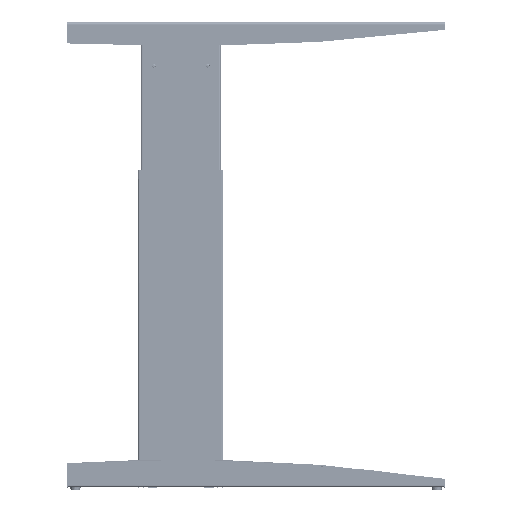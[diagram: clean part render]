
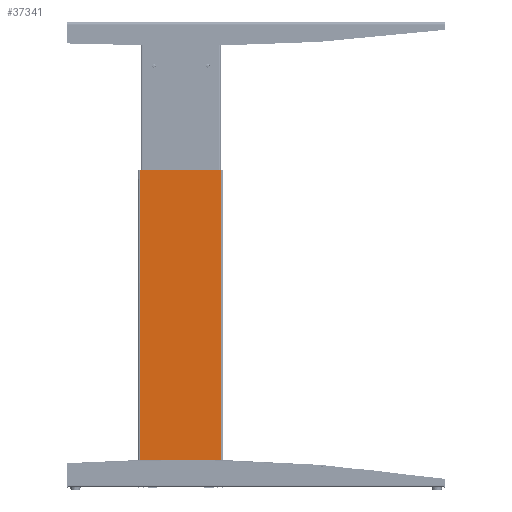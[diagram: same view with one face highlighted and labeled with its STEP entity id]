
A CAD part, left-side view. The second image highlights one B-rep face of the part: STEP entity #37341.
In plain terms, the highlighted planar face has unit normal (-1, 0, 0).
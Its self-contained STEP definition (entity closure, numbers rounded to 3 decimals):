
#38 = DIRECTION ( 'NONE',  ( 0., 0., 1. ) ) ;
#548 = VERTEX_POINT ( 'NONE', #57184 ) ;
#2186 = VECTOR ( 'NONE', #38, 1000. ) ;
#2743 = VERTEX_POINT ( 'NONE', #67647 ) ;
#2942 = LINE ( 'NONE', #86277, #45750 ) ;
#3286 = EDGE_CURVE ( 'NONE', #31688, #548, #46177, .T. ) ;
#4493 = PLANE ( 'NONE',  #37772 ) ;
#13155 = EDGE_CURVE ( 'NONE', #86070, #2743, #2942, .T. ) ;
#14110 = EDGE_LOOP ( 'NONE', ( #73879, #49054, #46173, #56148 ) ) ;
#21799 = CARTESIAN_POINT ( 'NONE',  ( 0., -78.85, 612. ) ) ;
#22807 = DIRECTION ( 'NONE',  ( 0., 0., -1. ) ) ;
#23829 = EDGE_CURVE ( 'NONE', #86070, #548, #46445, .T. ) ;
#31573 = VECTOR ( 'NONE', #83739, 1000. ) ;
#31688 = VERTEX_POINT ( 'NONE', #54490 ) ;
#33321 = CARTESIAN_POINT ( 'NONE',  ( 0., -82.5, 2. ) ) ;
#36690 = CARTESIAN_POINT ( 'NONE',  ( 0., 78.85, 2. ) ) ;
#37341 = ADVANCED_FACE ( 'NONE', ( #61816 ), #4493, .T. ) ;
#37772 = AXIS2_PLACEMENT_3D ( 'NONE', #39461, #90879, #61164 ) ;
#39461 = CARTESIAN_POINT ( 'NONE',  ( 0., 82.5, 612. ) ) ;
#45253 = VECTOR ( 'NONE', #22807, 1000. ) ;
#45750 = VECTOR ( 'NONE', #85973, 1000. ) ;
#46173 = ORIENTED_EDGE ( 'NONE', *, *, #3286, .F. ) ;
#46177 = LINE ( 'NONE', #33321, #31573 ) ;
#46445 = LINE ( 'NONE', #36690, #45253 ) ;
#49054 = ORIENTED_EDGE ( 'NONE', *, *, #23829, .T. ) ;
#54490 = CARTESIAN_POINT ( 'NONE',  ( 0., -78.85, 2. ) ) ;
#56148 = ORIENTED_EDGE ( 'NONE', *, *, #81277, .T. ) ;
#57184 = CARTESIAN_POINT ( 'NONE',  ( 0., 78.85, 2. ) ) ;
#61164 = DIRECTION ( 'NONE',  ( 0., -1., 0. ) ) ;
#61816 = FACE_OUTER_BOUND ( 'NONE', #14110, .T. ) ;
#67647 = CARTESIAN_POINT ( 'NONE',  ( 0., -78.85, 612. ) ) ;
#73879 = ORIENTED_EDGE ( 'NONE', *, *, #13155, .F. ) ;
#76451 = CARTESIAN_POINT ( 'NONE',  ( 0., 78.85, 612. ) ) ;
#81277 = EDGE_CURVE ( 'NONE', #31688, #2743, #84497, .T. ) ;
#83739 = DIRECTION ( 'NONE',  ( 0., 1., 0. ) ) ;
#84497 = LINE ( 'NONE', #21799, #2186 ) ;
#85973 = DIRECTION ( 'NONE',  ( 0., -1., 0. ) ) ;
#86070 = VERTEX_POINT ( 'NONE', #76451 ) ;
#86277 = CARTESIAN_POINT ( 'NONE',  ( 0., 82.5, 612. ) ) ;
#90879 = DIRECTION ( 'NONE',  ( -1., 0., 0. ) ) ;
